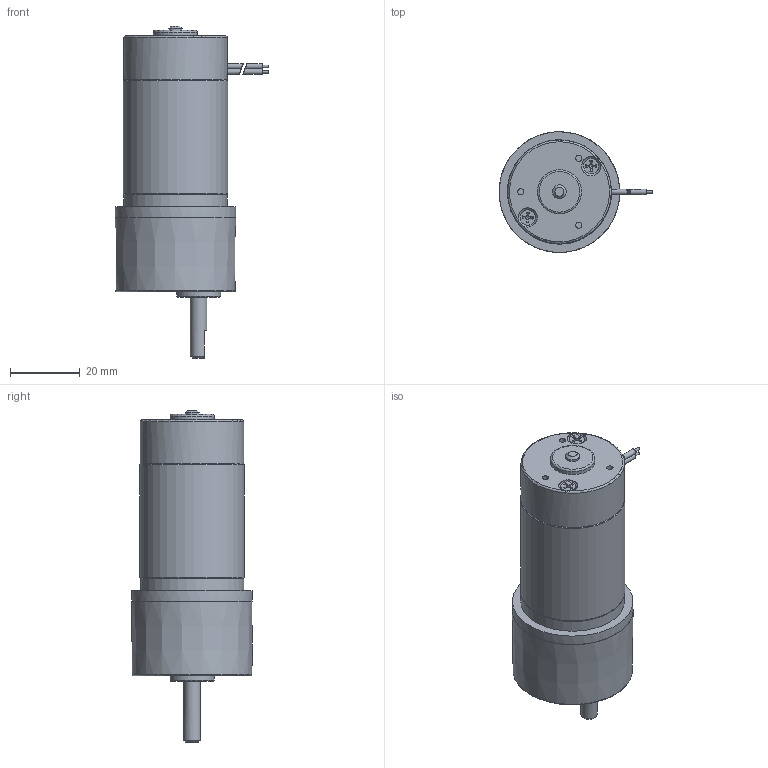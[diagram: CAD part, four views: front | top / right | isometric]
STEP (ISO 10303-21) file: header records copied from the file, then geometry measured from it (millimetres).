
FILE_DESCRIPTION((''),'2;1');
FILE_NAME('Z:\4_DC\새 폴더\RS3 SERIES\RS32ㅁㅁL(O~U).stp','2015-02-12T15:54:27',('kdhkdh'),(''),'Autodesk Inventor 2013','Autodesk Inventor 2013','');
FILE_SCHEMA(('AUTOMOTIVE_DESIGN { 1 0 10303 214 1 1 1 1 }'));
Length unit declared in the file: millimetre
Products named in the file (1): 부품2
Bounding box: 44.28 x 34.74 x 95.49 mm (x, y, z)
Volume: 58169.9 mm3; surface area: 10154.9 mm2
Topology: 2 solids, 7 shells, 203 faces, 500 edges, 325 vertices
Faces by surface type: plane 76, cylinder 60, cone 43, torus 24
Full cylindrical faces by diameter (mm): 0.76 x2, 1.56 x4, 1.8 x3, 2.156 x3, 2.5 x5, 2.6 x2, 2.7 x3, 4 x1, 4.4 x5, 4.76 x1, 5.5 x5, 12.7 x2, 29.8 x2, 30 x1, 34.7 x1
Entity records: 6114 total; most frequent: CARTESIAN_POINT 1753, DIRECTION 842, ORIENTED_EDGE 818, EDGE_CURVE 409, AXIS2_PLACEMENT_3D 377, VERTEX_POINT 296, EDGE_LOOP 290, FACE_OUTER_BOUND 203
